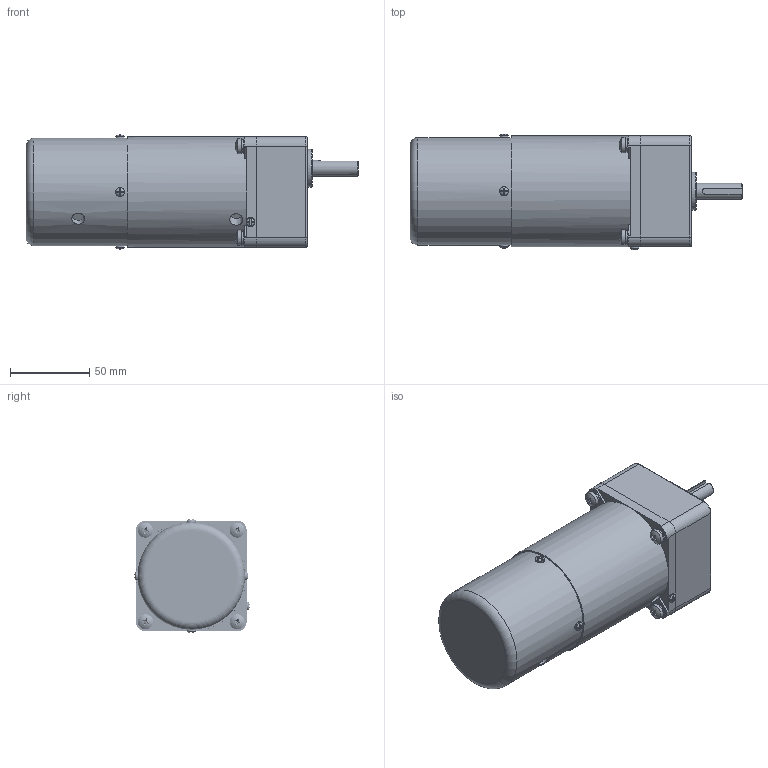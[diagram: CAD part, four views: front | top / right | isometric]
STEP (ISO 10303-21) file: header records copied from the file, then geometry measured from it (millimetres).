
FILE_DESCRIPTION(/* description */ (''),/* implementation_level */ '2;1');
FILE_NAME(/* name */ '70矮箱L-25刹车调速.stp',/* time_stamp */ '2022-10-31T09:42:04+08:00',/* author */ (''),/* organization */ (''),/* preprocessor_version */ 'ST-DEVELOPER v16.7',/* originating_system */ 'SIEMENS PLM Software NX 1899',/* authorisation */ '');
FILE_SCHEMA (('AP203_CONFIGURATION_CONTROLLED_3D_DESIGN_OF_MECHANICAL_PARTS_AND_ASSEMBLIES_MIM_LF { 1 0 10303 403 2 1 2}'));
Products named in the file (1): yf186188FEB6lcc5
Bounding box: 210 x 73.18 x 72.28 mm (x, y, z)
Volume: 710621.4 mm3; surface area: 68795.4 mm2
Topology: 14 solids, 15 shells, 355 faces, 913 edges, 609 vertices
Faces by surface type: plane 171, bspline 88, cylinder 69, torus 11, sphere 9, cone 7
Full cylindrical faces by diameter (mm): 2.7 x1, 4.826 x4, 5 x4, 5.3 x4, 5.6 x5, 6 x5, 8 x1, 8.3 x1, 9 x4, 9.5 x4, 10 x1, 24 x1, 63 x1, 66.6 x2, 68 x1, 70 x1
Entity records: 56523 total; most frequent: CARTESIAN_POINT 48518, ORIENTED_EDGE 1608, DIRECTION 1347, EDGE_CURVE 804, VERTEX_POINT 562, AXIS2_PLACEMENT_3D 536, EDGE_LOOP 461, ADVANCED_FACE 355
